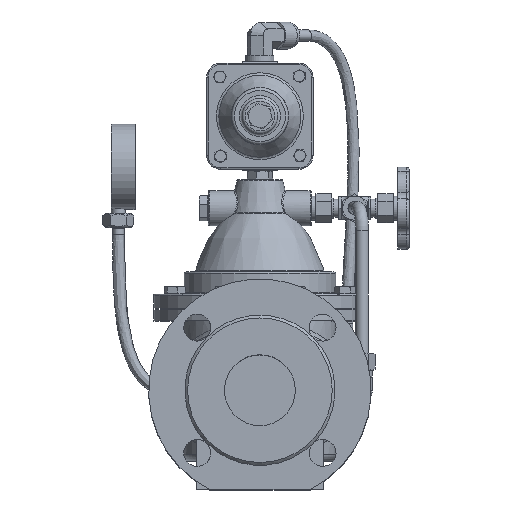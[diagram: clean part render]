
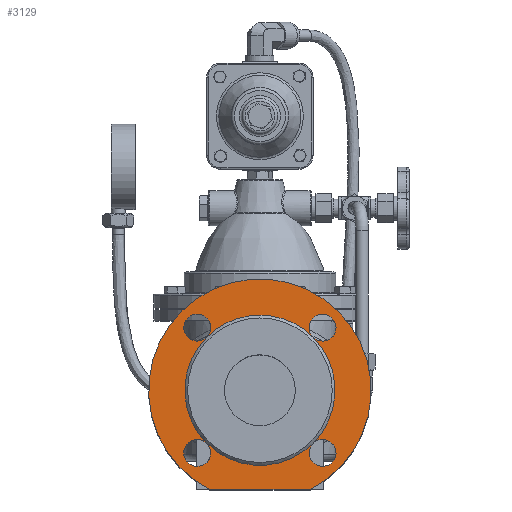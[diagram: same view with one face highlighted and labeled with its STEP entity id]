
A CAD part, top view. The second image highlights one B-rep face of the part: STEP entity #3129.
In plain terms, the highlighted planar face has unit normal (0, 0, 1).
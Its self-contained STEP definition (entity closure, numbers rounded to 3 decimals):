
#3129=ADVANCED_FACE('',(#21643,#21645,#21647,#21649,#21651,#21653),#21655,.T.);
#21643=FACE_BOUND('',#21644,.T.);
#21644=EDGE_LOOP('',(#46921,#46922));
#21645=FACE_BOUND('',#21646,.T.);
#21646=EDGE_LOOP('',(#46923,#46924));
#21647=FACE_BOUND('',#21648,.T.);
#21648=EDGE_LOOP('',(#46925));
#21649=FACE_BOUND('',#21650,.T.);
#21650=EDGE_LOOP('',(#46926,#46927,#46928));
#21651=FACE_BOUND('',#21652,.T.);
#21652=EDGE_LOOP('',(#46929));
#21653=FACE_BOUND('',#21654,.T.);
#21654=EDGE_LOOP('',(#46930,#46931));
#21655=PLANE('',#21656);
#21656=AXIS2_PLACEMENT_3D('',#21657,#21658,#21659);
#21657=CARTESIAN_POINT('',(0.,0.,106.5));
#21658=DIRECTION('',(0.,0.,1.));
#21659=DIRECTION('',(0.,1.,0.));
#46921=ORIENTED_EDGE('',*,*,#58641,.T.);
#46922=ORIENTED_EDGE('',*,*,#58643,.F.);
#46923=ORIENTED_EDGE('',*,*,#58646,.T.);
#46924=ORIENTED_EDGE('',*,*,#58645,.T.);
#46925=ORIENTED_EDGE('',*,*,#58644,.T.);
#46926=ORIENTED_EDGE('',*,*,#58679,.T.);
#46927=ORIENTED_EDGE('',*,*,#58680,.T.);
#46928=ORIENTED_EDGE('',*,*,#58681,.T.);
#46929=ORIENTED_EDGE('',*,*,#58649,.T.);
#46930=ORIENTED_EDGE('',*,*,#58648,.T.);
#46931=ORIENTED_EDGE('',*,*,#58647,.T.);
#58641=EDGE_CURVE('',#63037,#63035,#63038,.T.);
#58643=EDGE_CURVE('',#63037,#63035,#63040,.T.);
#58644=EDGE_CURVE('',#63041,#63041,#63042,.F.);
#58645=EDGE_CURVE('',#63043,#63044,#63045,.F.);
#58646=EDGE_CURVE('',#63044,#63043,#63046,.F.);
#58647=EDGE_CURVE('',#63047,#63048,#63049,.F.);
#58648=EDGE_CURVE('',#63048,#63047,#63050,.F.);
#58649=EDGE_CURVE('',#63051,#63051,#63052,.F.);
#58679=EDGE_CURVE('',#63044,#63048,#63106,.T.);
#58680=EDGE_CURVE('',#63048,#63107,#63108,.T.);
#58681=EDGE_CURVE('',#63107,#63044,#63109,.T.);
#63035=VERTEX_POINT('',#86056);
#63037=VERTEX_POINT('',#86060);
#63038=LINE('',#86061,#86062);
#63040=CIRCLE('',#86067,78.5);
#63041=VERTEX_POINT('',#86071);
#63042=CIRCLE('',#86072,9.5);
#63043=VERTEX_POINT('',#86076);
#63044=VERTEX_POINT('',#86077);
#63045=CIRCLE('',#86078,9.5);
#63046=CIRCLE('',#86082,9.5);
#63047=VERTEX_POINT('',#86086);
#63048=VERTEX_POINT('',#86087);
#63049=CIRCLE('',#86088,9.5);
#63050=CIRCLE('',#86092,9.5);
#63051=VERTEX_POINT('',#86096);
#63052=CIRCLE('',#86097,9.5);
#63106=CIRCLE('',#86339,53.);
#63107=VERTEX_POINT('',#86343);
#63108=CIRCLE('',#86344,53.);
#63109=CIRCLE('',#86348,53.);
#86056=CARTESIAN_POINT('',(35.528,-70.,106.5));
#86060=CARTESIAN_POINT('',(-35.528,-70.,106.5));
#86061=CARTESIAN_POINT('',(-35.528,-70.,106.5));
#86062=VECTOR('',#86063,1.);
#86063=DIRECTION('',(1.,0.,0.));
#86067=AXIS2_PLACEMENT_3D('',#86068,#86069,#86070);
#86068=CARTESIAN_POINT('',(0.,0.,106.5));
#86069=DIRECTION('',(0.,0.,-1.));
#86070=DIRECTION('',(-0.453,-0.892,0.));
#86071=CARTESIAN_POINT('',(44.194,-53.694,106.5));
#86072=AXIS2_PLACEMENT_3D('',#86073,#86074,#86075);
#86073=CARTESIAN_POINT('',(44.194,-44.194,106.5));
#86074=DIRECTION('',(0.,0.,1.));
#86075=DIRECTION('',(0.,-1.,0.));
#86076=CARTESIAN_POINT('',(-53.694,-44.194,106.5));
#86077=CARTESIAN_POINT('',(-37.477,-37.477,106.5));
#86078=AXIS2_PLACEMENT_3D('',#86079,#86080,#86081);
#86079=CARTESIAN_POINT('',(-44.194,-44.194,106.5));
#86080=DIRECTION('',(0.,0.,1.));
#86081=DIRECTION('',(0.707,0.707,0.));
#86082=AXIS2_PLACEMENT_3D('',#86083,#86084,#86085);
#86083=CARTESIAN_POINT('',(-44.194,-44.194,106.5));
#86084=DIRECTION('',(0.,0.,1.));
#86085=DIRECTION('',(-1.,0.,0.));
#86086=CARTESIAN_POINT('',(-44.194,53.694,106.5));
#86087=CARTESIAN_POINT('',(-37.477,37.477,106.5));
#86088=AXIS2_PLACEMENT_3D('',#86089,#86090,#86091);
#86089=CARTESIAN_POINT('',(-44.194,44.194,106.5));
#86090=DIRECTION('',(0.,0.,1.));
#86091=DIRECTION('',(0.707,-0.707,0.));
#86092=AXIS2_PLACEMENT_3D('',#86093,#86094,#86095);
#86093=CARTESIAN_POINT('',(-44.194,44.194,106.5));
#86094=DIRECTION('',(0.,0.,1.));
#86095=DIRECTION('',(0.,1.,0.));
#86096=CARTESIAN_POINT('',(53.694,44.194,106.5));
#86097=AXIS2_PLACEMENT_3D('',#86098,#86099,#86100);
#86098=CARTESIAN_POINT('',(44.194,44.194,106.5));
#86099=DIRECTION('',(0.,0.,1.));
#86100=DIRECTION('',(1.,0.,0.));
#86339=AXIS2_PLACEMENT_3D('',#86340,#86341,#86342);
#86340=CARTESIAN_POINT('',(0.,0.,106.5));
#86341=DIRECTION('',(0.,0.,-1.));
#86342=DIRECTION('',(-0.707,-0.707,0.));
#86343=CARTESIAN_POINT('',(0.,53.,106.5));
#86344=AXIS2_PLACEMENT_3D('',#86345,#86346,#86347);
#86345=CARTESIAN_POINT('',(0.,0.,106.5));
#86346=DIRECTION('',(0.,0.,-1.));
#86347=DIRECTION('',(-0.707,0.707,0.));
#86348=AXIS2_PLACEMENT_3D('',#86349,#86350,#86351);
#86349=CARTESIAN_POINT('',(0.,0.,106.5));
#86350=DIRECTION('',(0.,0.,-1.));
#86351=DIRECTION('',(0.,1.,0.));
